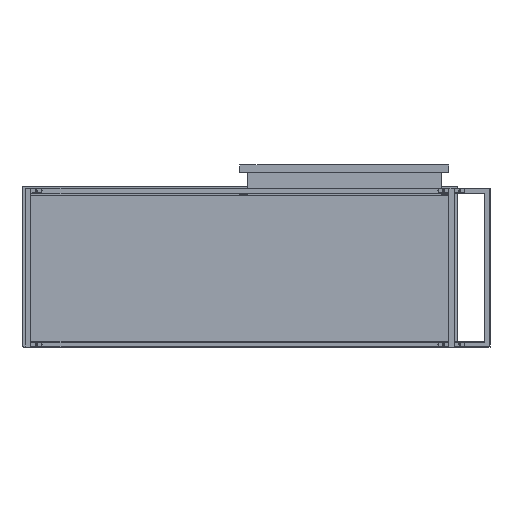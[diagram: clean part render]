
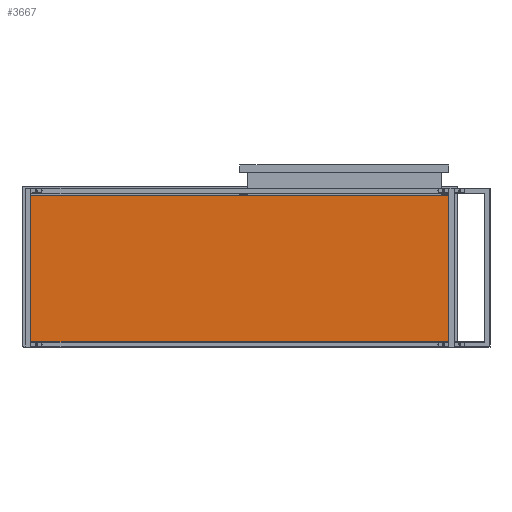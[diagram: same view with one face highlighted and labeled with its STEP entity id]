
A CAD part, front view. The second image highlights one B-rep face of the part: STEP entity #3667.
In plain terms, the highlighted planar face has unit normal (0, -1, 0).
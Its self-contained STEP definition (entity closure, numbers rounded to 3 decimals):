
#255 = VERTEX_POINT ( 'NONE', #27817 ) ;
#808 = LINE ( 'NONE', #23209, #32124 ) ;
#1336 = VERTEX_POINT ( 'NONE', #31973 ) ;
#1396 = ORIENTED_EDGE ( 'NONE', *, *, #31018, .F. ) ;
#2325 = CARTESIAN_POINT ( 'NONE',  ( -585., -125., -425. ) ) ;
#2544 = VECTOR ( 'NONE', #14074, 1000. ) ;
#3353 = VECTOR ( 'NONE', #21035, 1000. ) ;
#3667 = ADVANCED_FACE ( 'NONE', ( #17803 ), #26257, .T. ) ;
#4484 = VECTOR ( 'NONE', #13542, 1000. ) ;
#5079 = LINE ( 'NONE', #2325, #4484 ) ;
#10664 = VERTEX_POINT ( 'NONE', #28668 ) ;
#10964 = EDGE_CURVE ( 'NONE', #10664, #1336, #808, .T. ) ;
#11666 = DIRECTION ( 'NONE',  ( 1., 0., 0. ) ) ;
#12815 = AXIS2_PLACEMENT_3D ( 'NONE', #23494, #34694, #28458 ) ;
#13542 = DIRECTION ( 'NONE',  ( 0., 0., 1. ) ) ;
#13894 = ORIENTED_EDGE ( 'NONE', *, *, #10964, .T. ) ;
#14074 = DIRECTION ( 'NONE',  ( 0., 0., 1. ) ) ;
#14251 = CARTESIAN_POINT ( 'NONE',  ( 585., -125., -425. ) ) ;
#17803 = FACE_OUTER_BOUND ( 'NONE', #29425, .T. ) ;
#19516 = ORIENTED_EDGE ( 'NONE', *, *, #31546, .F. ) ;
#21035 = DIRECTION ( 'NONE',  ( 1., 0., 0. ) ) ;
#23209 = CARTESIAN_POINT ( 'NONE',  ( -585., -125., -425. ) ) ;
#23494 = CARTESIAN_POINT ( 'NONE',  ( -585., -125., -425. ) ) ;
#23677 = EDGE_CURVE ( 'NONE', #1336, #255, #30930, .T. ) ;
#24152 = LINE ( 'NONE', #26374, #3353 ) ;
#26257 = PLANE ( 'NONE',  #12815 ) ;
#26374 = CARTESIAN_POINT ( 'NONE',  ( -585., -125., 0. ) ) ;
#27752 = CARTESIAN_POINT ( 'NONE',  ( -585., -125., 0. ) ) ;
#27817 = CARTESIAN_POINT ( 'NONE',  ( 585., -125., 0. ) ) ;
#28024 = VERTEX_POINT ( 'NONE', #27752 ) ;
#28401 = ORIENTED_EDGE ( 'NONE', *, *, #23677, .T. ) ;
#28458 = DIRECTION ( 'NONE',  ( 0., 0., -1. ) ) ;
#28668 = CARTESIAN_POINT ( 'NONE',  ( -585., -125., -425. ) ) ;
#29425 = EDGE_LOOP ( 'NONE', ( #19516, #1396, #13894, #28401 ) ) ;
#30930 = LINE ( 'NONE', #14251, #2544 ) ;
#31018 = EDGE_CURVE ( 'NONE', #10664, #28024, #5079, .T. ) ;
#31546 = EDGE_CURVE ( 'NONE', #28024, #255, #24152, .T. ) ;
#31973 = CARTESIAN_POINT ( 'NONE',  ( 585., -125., -425. ) ) ;
#32124 = VECTOR ( 'NONE', #11666, 1000. ) ;
#34694 = DIRECTION ( 'NONE',  ( 0., -1., 0. ) ) ;
